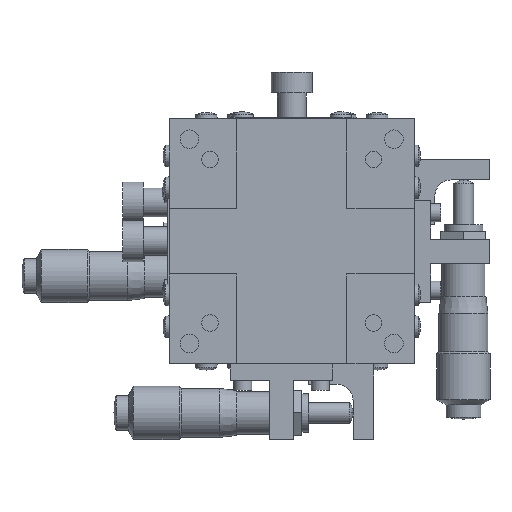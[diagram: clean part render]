
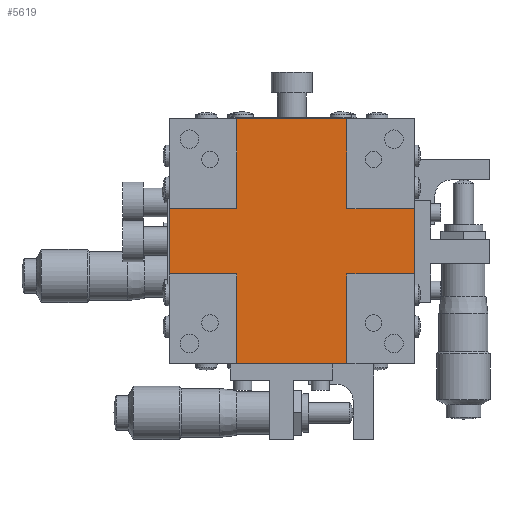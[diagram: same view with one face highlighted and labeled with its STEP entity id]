
A CAD part, front view. The second image highlights one B-rep face of the part: STEP entity #5619.
In plain terms, the highlighted planar face has unit normal (0, -1, 0).
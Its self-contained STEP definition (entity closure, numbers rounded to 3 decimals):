
#5619 = ADVANCED_FACE ( 'NONE', ( #8650 ), #8651, .T. ) ;
#6382 = DIRECTION ( 'NONE',  ( 0., -1., 0. ) ) ;
#6383 = DIRECTION ( 'NONE',  ( 0., 0., 1. ) ) ;
#7277 = VECTOR ( 'NONE', #18718, 1000. ) ;
#7283 = VECTOR ( 'NONE', #18697, 1000. ) ;
#7287 = VECTOR ( 'NONE', #18683, 1000. ) ;
#7294 = VECTOR ( 'NONE', #18661, 1000. ) ;
#7298 = VECTOR ( 'NONE', #18676, 1000. ) ;
#7335 = ORIENTED_EDGE ( 'NONE', *, *, #21964, .T. ) ;
#8640 = CARTESIAN_POINT ( 'NONE',  ( 0., -6.5, 36.141 ) ) ;
#8650 = FACE_OUTER_BOUND ( 'NONE', #17682, .T. ) ;
#8651 = PLANE ( 'NONE',  #23253 ) ;
#10089 = VECTOR ( 'NONE', #13797, 1000. ) ;
#10113 = VECTOR ( 'NONE', #13746, 1000. ) ;
#10120 = VECTOR ( 'NONE', #13716, 1000. ) ;
#10127 = VECTOR ( 'NONE', #13707, 1000. ) ;
#10129 = VECTOR ( 'NONE', #13689, 1000. ) ;
#11610 = CARTESIAN_POINT ( 'NONE',  ( -13.5, -6.5, -22. ) ) ;
#11612 = CARTESIAN_POINT ( 'NONE',  ( 13.5, -6.5, -38. ) ) ;
#11616 = CARTESIAN_POINT ( 'NONE',  ( -30., -6.5, -22. ) ) ;
#11618 = CARTESIAN_POINT ( 'NONE',  ( -13.5, -6.5, -38. ) ) ;
#11622 = CARTESIAN_POINT ( 'NONE',  ( -13.5, -6.5, 0. ) ) ;
#11625 = CARTESIAN_POINT ( 'NONE',  ( -13.5, -6.5, -60. ) ) ;
#11627 = CARTESIAN_POINT ( 'NONE',  ( 13.5, -6.5, -60. ) ) ;
#11629 = CARTESIAN_POINT ( 'NONE',  ( -30., -6.5, -38. ) ) ;
#11633 = CARTESIAN_POINT ( 'NONE',  ( 30., -6.5, -22. ) ) ;
#11639 = CARTESIAN_POINT ( 'NONE',  ( 13.5, -6.5, 0. ) ) ;
#12074 = CARTESIAN_POINT ( 'NONE',  ( 13.5, -6.5, -22. ) ) ;
#12108 = CARTESIAN_POINT ( 'NONE',  ( 30., -6.5, -38. ) ) ;
#13350 = CARTESIAN_POINT ( 'NONE',  ( 30., -6.5, 36.141 ) ) ;
#13354 = LINE ( 'NONE', #13350, #16649 ) ;
#13359 = DIRECTION ( 'NONE',  ( 0., 0., 1. ) ) ;
#13556 = LINE ( 'NONE', #13557, #16570 ) ;
#13557 = CARTESIAN_POINT ( 'NONE',  ( -30., -6.5, 36.141 ) ) ;
#13558 = DIRECTION ( 'NONE',  ( 0., 0., -1. ) ) ;
#13674 = LINE ( 'NONE', #13706, #10127 ) ;
#13687 = LINE ( 'NONE', #13688, #10129 ) ;
#13688 = CARTESIAN_POINT ( 'NONE',  ( -13.5, -6.5, 36.141 ) ) ;
#13689 = DIRECTION ( 'NONE',  ( 0., 0., 1. ) ) ;
#13706 = CARTESIAN_POINT ( 'NONE',  ( 13.5, -6.5, 36.141 ) ) ;
#13707 = DIRECTION ( 'NONE',  ( 0., 0., 1. ) ) ;
#13714 = LINE ( 'NONE', #13715, #10120 ) ;
#13715 = CARTESIAN_POINT ( 'NONE',  ( 0., -6.5, -22. ) ) ;
#13716 = DIRECTION ( 'NONE',  ( -1., 0., 0. ) ) ;
#13736 = LINE ( 'NONE', #13745, #10113 ) ;
#13745 = CARTESIAN_POINT ( 'NONE',  ( 0., -6.5, -38. ) ) ;
#13746 = DIRECTION ( 'NONE',  ( -1., 0., 0. ) ) ;
#13759 = CARTESIAN_POINT ( 'NONE',  ( 0., -6.5, 0. ) ) ;
#13787 = LINE ( 'NONE', #13759, #10089 ) ;
#13797 = DIRECTION ( 'NONE',  ( -1., 0., 0. ) ) ;
#14033 = LINE ( 'NONE', #18657, #7294 ) ;
#16570 = VECTOR ( 'NONE', #13558, 1000. ) ;
#16649 = VECTOR ( 'NONE', #13359, 1000. ) ;
#16848 = ORIENTED_EDGE ( 'NONE', *, *, #22052, .F. ) ;
#16849 = ORIENTED_EDGE ( 'NONE', *, *, #21991, .T. ) ;
#16850 = ORIENTED_EDGE ( 'NONE', *, *, #22047, .T. ) ;
#16851 = ORIENTED_EDGE ( 'NONE', *, *, #22044, .F. ) ;
#16852 = ORIENTED_EDGE ( 'NONE', *, *, #21912, .T. ) ;
#16853 = ORIENTED_EDGE ( 'NONE', *, *, #22046, .T. ) ;
#16854 = ORIENTED_EDGE ( 'NONE', *, *, #21955, .F. ) ;
#16855 = ORIENTED_EDGE ( 'NONE', *, *, #22049, .T. ) ;
#16856 = ORIENTED_EDGE ( 'NONE', *, *, #21961, .T. ) ;
#16857 = ORIENTED_EDGE ( 'NONE', *, *, #21974, .F. ) ;
#16858 = ORIENTED_EDGE ( 'NONE', *, *, #21855, .T. ) ;
#17682 = EDGE_LOOP ( 'NONE', ( #16848, #16849, #16850, #16851, #16852, #16853, #16854, #16855, #16856, #16857, #16858, #7335 ) ) ;
#17862 = VERTEX_POINT ( 'NONE', #11610 ) ;
#17863 = VERTEX_POINT ( 'NONE', #11612 ) ;
#17865 = VERTEX_POINT ( 'NONE', #11616 ) ;
#17866 = VERTEX_POINT ( 'NONE', #11618 ) ;
#17868 = VERTEX_POINT ( 'NONE', #11622 ) ;
#17871 = VERTEX_POINT ( 'NONE', #11625 ) ;
#17872 = VERTEX_POINT ( 'NONE', #11627 ) ;
#17873 = VERTEX_POINT ( 'NONE', #11629 ) ;
#17875 = VERTEX_POINT ( 'NONE', #11633 ) ;
#17879 = VERTEX_POINT ( 'NONE', #11639 ) ;
#18480 = VERTEX_POINT ( 'NONE', #12074 ) ;
#18539 = VERTEX_POINT ( 'NONE', #12108 ) ;
#18653 = CARTESIAN_POINT ( 'NONE',  ( 0., -6.5, -38. ) ) ;
#18657 = CARTESIAN_POINT ( 'NONE',  ( 0., -6.5, -22. ) ) ;
#18661 = DIRECTION ( 'NONE',  ( 1., 0., 0. ) ) ;
#18667 = LINE ( 'NONE', #18653, #7298 ) ;
#18676 = DIRECTION ( 'NONE',  ( 1., 0., 0. ) ) ;
#18678 = LINE ( 'NONE', #18681, #7287 ) ;
#18681 = CARTESIAN_POINT ( 'NONE',  ( -13.5, -6.5, 36.141 ) ) ;
#18683 = DIRECTION ( 'NONE',  ( 0., 0., -1. ) ) ;
#18692 = LINE ( 'NONE', #18695, #7283 ) ;
#18695 = CARTESIAN_POINT ( 'NONE',  ( 0., -6.5, -60. ) ) ;
#18697 = DIRECTION ( 'NONE',  ( 1., 0., 0. ) ) ;
#18713 = LINE ( 'NONE', #18716, #7277 ) ;
#18716 = CARTESIAN_POINT ( 'NONE',  ( 13.5, -6.5, 36.141 ) ) ;
#18718 = DIRECTION ( 'NONE',  ( 0., 0., -1. ) ) ;
#21855 = EDGE_CURVE ( 'NONE', #18539, #17875, #13354, .T. ) ;
#21912 = EDGE_CURVE ( 'NONE', #17865, #17873, #13556, .T. ) ;
#21955 = EDGE_CURVE ( 'NONE', #17871, #17866, #13687, .T. ) ;
#21961 = EDGE_CURVE ( 'NONE', #17872, #17863, #13674, .T. ) ;
#21964 = EDGE_CURVE ( 'NONE', #17875, #18480, #13714, .T. ) ;
#21974 = EDGE_CURVE ( 'NONE', #18539, #17863, #13736, .T. ) ;
#21991 = EDGE_CURVE ( 'NONE', #17879, #17868, #13787, .T. ) ;
#22044 = EDGE_CURVE ( 'NONE', #17865, #17862, #14033, .T. ) ;
#22046 = EDGE_CURVE ( 'NONE', #17873, #17866, #18667, .T. ) ;
#22047 = EDGE_CURVE ( 'NONE', #17868, #17862, #18678, .T. ) ;
#22049 = EDGE_CURVE ( 'NONE', #17871, #17872, #18692, .T. ) ;
#22052 = EDGE_CURVE ( 'NONE', #17879, #18480, #18713, .T. ) ;
#23253 = AXIS2_PLACEMENT_3D ( 'NONE', #8640, #6382, #6383 ) ;
